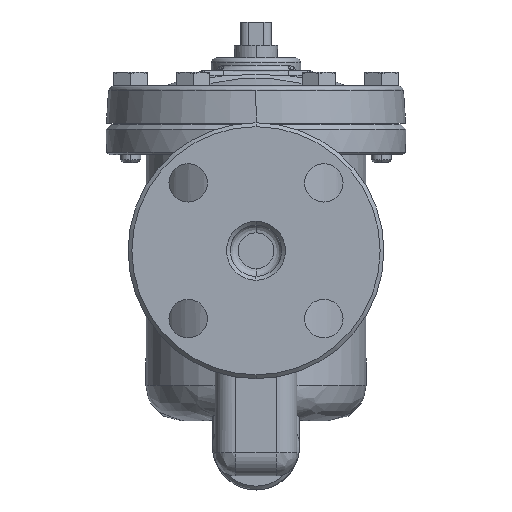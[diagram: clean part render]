
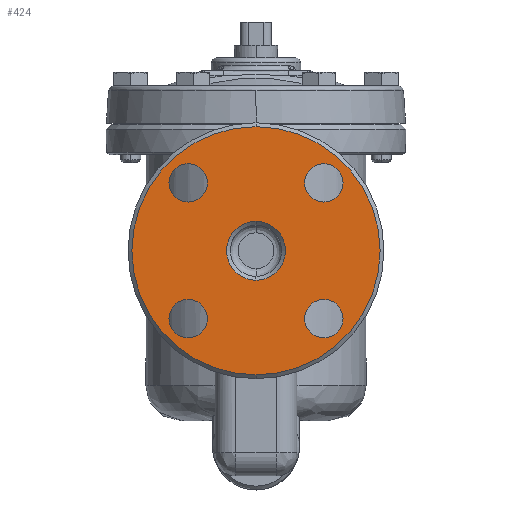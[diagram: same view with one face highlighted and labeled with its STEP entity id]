
A CAD part, left-side view. The second image highlights one B-rep face of the part: STEP entity #424.
In plain terms, the highlighted planar face has unit normal (-1, 0, 0).
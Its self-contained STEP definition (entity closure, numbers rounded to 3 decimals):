
#424=ADVANCED_FACE('',(#2369,#2370,#2371,#2372,#2373,#2374),#2368,.T.);
#2368=PLANE('',#5509);
#2369=FACE_OUTER_BOUND('',#5510,.T.);
#2370=FACE_BOUND('',#5511,.T.);
#2371=FACE_BOUND('',#5512,.T.);
#2372=FACE_BOUND('',#5513,.T.);
#2373=FACE_BOUND('',#5514,.T.);
#2374=FACE_BOUND('',#5515,.T.);
#5506=CARTESIAN_POINT('',(-87.5,-94.004,-107.));
#5507=DIRECTION('',(-1.,0.,0.));
#5508=DIRECTION('',(0.,0.,1.));
#5509=AXIS2_PLACEMENT_3D('',#5506,#5507,#5508);
#5510=EDGE_LOOP('',(#7207,#7208));
#5511=EDGE_LOOP('',(#7209,#7210));
#5512=EDGE_LOOP('',(#7211,#7212));
#5513=EDGE_LOOP('',(#7213,#7214));
#5514=EDGE_LOOP('',(#7215,#7216));
#5515=EDGE_LOOP('',(#7217,#7218));
#7207=ORIENTED_EDGE('',*,*,#8071,.T.);
#7208=ORIENTED_EDGE('',*,*,#8072,.T.);
#7209=ORIENTED_EDGE('',*,*,#8073,.F.);
#7210=ORIENTED_EDGE('',*,*,#8074,.F.);
#7211=ORIENTED_EDGE('',*,*,#8075,.F.);
#7212=ORIENTED_EDGE('',*,*,#8076,.F.);
#7213=ORIENTED_EDGE('',*,*,#8077,.F.);
#7214=ORIENTED_EDGE('',*,*,#8078,.F.);
#7215=ORIENTED_EDGE('',*,*,#8079,.F.);
#7216=ORIENTED_EDGE('',*,*,#8080,.F.);
#7217=ORIENTED_EDGE('',*,*,#8081,.F.);
#7218=ORIENTED_EDGE('',*,*,#8082,.F.);
#8071=EDGE_CURVE('',#11449,#11450,#11451,.T.);
#8072=EDGE_CURVE('',#11450,#11449,#11457,.T.);
#8073=EDGE_CURVE('',#11463,#11464,#11465,.T.);
#8074=EDGE_CURVE('',#11464,#11463,#11471,.T.);
#8075=EDGE_CURVE('',#11477,#11478,#11479,.T.);
#8076=EDGE_CURVE('',#11478,#11477,#11485,.T.);
#8077=EDGE_CURVE('',#11491,#11492,#11493,.T.);
#8078=EDGE_CURVE('',#11492,#11491,#11499,.T.);
#8079=EDGE_CURVE('',#11505,#11506,#11507,.T.);
#8080=EDGE_CURVE('',#11506,#11505,#11513,.T.);
#8081=EDGE_CURVE('',#11519,#11520,#11521,.T.);
#8082=EDGE_CURVE('',#11520,#11519,#11527,.T.);
#11449=VERTEX_POINT('',#15263);
#11450=VERTEX_POINT('',#15264);
#11451=CIRCLE('',#15268,48.5);
#11457=CIRCLE('',#15272,48.5);
#11463=VERTEX_POINT('',#15273);
#11464=VERTEX_POINT('',#15274);
#11465=CIRCLE('',#15278,7.5);
#11471=CIRCLE('',#15282,7.5);
#11477=VERTEX_POINT('',#15283);
#11478=VERTEX_POINT('',#15284);
#11479=CIRCLE('',#15288,7.5);
#11485=CIRCLE('',#15292,7.5);
#11491=VERTEX_POINT('',#15293);
#11492=VERTEX_POINT('',#15294);
#11493=CIRCLE('',#15298,7.5);
#11499=CIRCLE('',#15302,7.5);
#11505=VERTEX_POINT('',#15303);
#11506=VERTEX_POINT('',#15304);
#11507=CIRCLE('',#15308,7.5);
#11513=CIRCLE('',#15312,7.5);
#11519=VERTEX_POINT('',#15313);
#11520=VERTEX_POINT('',#15314);
#11521=CIRCLE('',#15318,11.5);
#11527=CIRCLE('',#15322,11.5);
#15263=CARTESIAN_POINT('',(-87.5,0.,48.5));
#15264=CARTESIAN_POINT('',(-87.5,0.,-48.5));
#15265=CARTESIAN_POINT('',(-87.5,0.,0.));
#15266=DIRECTION('',(-1.,0.,0.));
#15267=DIRECTION('',(0.,0.,1.));
#15268=AXIS2_PLACEMENT_3D('',#15265,#15266,#15267);
#15269=CARTESIAN_POINT('',(-87.5,0.,0.));
#15270=DIRECTION('',(-1.,0.,0.));
#15271=DIRECTION('',(0.,0.,1.));
#15272=AXIS2_PLACEMENT_3D('',#15269,#15270,#15271);
#15273=CARTESIAN_POINT('',(-87.5,-26.517,34.017));
#15274=CARTESIAN_POINT('',(-87.5,-26.517,19.017));
#15275=CARTESIAN_POINT('',(-87.5,-26.517,26.517));
#15276=DIRECTION('',(-1.,0.,0.));
#15277=DIRECTION('',(0.,0.,-1.));
#15278=AXIS2_PLACEMENT_3D('',#15275,#15276,#15277);
#15279=CARTESIAN_POINT('',(-87.5,-26.517,26.517));
#15280=DIRECTION('',(-1.,0.,0.));
#15281=DIRECTION('',(0.,0.,-1.));
#15282=AXIS2_PLACEMENT_3D('',#15279,#15280,#15281);
#15283=CARTESIAN_POINT('',(-87.5,-26.517,-19.017));
#15284=CARTESIAN_POINT('',(-87.5,-26.517,-34.017));
#15285=CARTESIAN_POINT('',(-87.5,-26.517,-26.517));
#15286=DIRECTION('',(-1.,0.,0.));
#15287=DIRECTION('',(0.,0.,-1.));
#15288=AXIS2_PLACEMENT_3D('',#15285,#15286,#15287);
#15289=CARTESIAN_POINT('',(-87.5,-26.517,-26.517));
#15290=DIRECTION('',(-1.,0.,0.));
#15291=DIRECTION('',(0.,0.,-1.));
#15292=AXIS2_PLACEMENT_3D('',#15289,#15290,#15291);
#15293=CARTESIAN_POINT('',(-87.5,26.517,-19.017));
#15294=CARTESIAN_POINT('',(-87.5,26.517,-34.017));
#15295=CARTESIAN_POINT('',(-87.5,26.517,-26.517));
#15296=DIRECTION('',(-1.,0.,0.));
#15297=DIRECTION('',(0.,0.,-1.));
#15298=AXIS2_PLACEMENT_3D('',#15295,#15296,#15297);
#15299=CARTESIAN_POINT('',(-87.5,26.517,-26.517));
#15300=DIRECTION('',(-1.,0.,0.));
#15301=DIRECTION('',(0.,0.,-1.));
#15302=AXIS2_PLACEMENT_3D('',#15299,#15300,#15301);
#15303=CARTESIAN_POINT('',(-87.5,26.517,34.017));
#15304=CARTESIAN_POINT('',(-87.5,26.517,19.017));
#15305=CARTESIAN_POINT('',(-87.5,26.517,26.517));
#15306=DIRECTION('',(-1.,0.,0.));
#15307=DIRECTION('',(0.,0.,-1.));
#15308=AXIS2_PLACEMENT_3D('',#15305,#15306,#15307);
#15309=CARTESIAN_POINT('',(-87.5,26.517,26.517));
#15310=DIRECTION('',(-1.,0.,0.));
#15311=DIRECTION('',(0.,0.,-1.));
#15312=AXIS2_PLACEMENT_3D('',#15309,#15310,#15311);
#15313=CARTESIAN_POINT('',(-87.5,0.,-11.5));
#15314=CARTESIAN_POINT('',(-87.5,0.,11.5));
#15315=CARTESIAN_POINT('',(-87.5,0.,0.));
#15316=DIRECTION('',(-1.,0.,0.));
#15317=DIRECTION('',(0.,0.,1.));
#15318=AXIS2_PLACEMENT_3D('',#15315,#15316,#15317);
#15319=CARTESIAN_POINT('',(-87.5,0.,0.));
#15320=DIRECTION('',(-1.,0.,0.));
#15321=DIRECTION('',(0.,0.,1.));
#15322=AXIS2_PLACEMENT_3D('',#15319,#15320,#15321);
